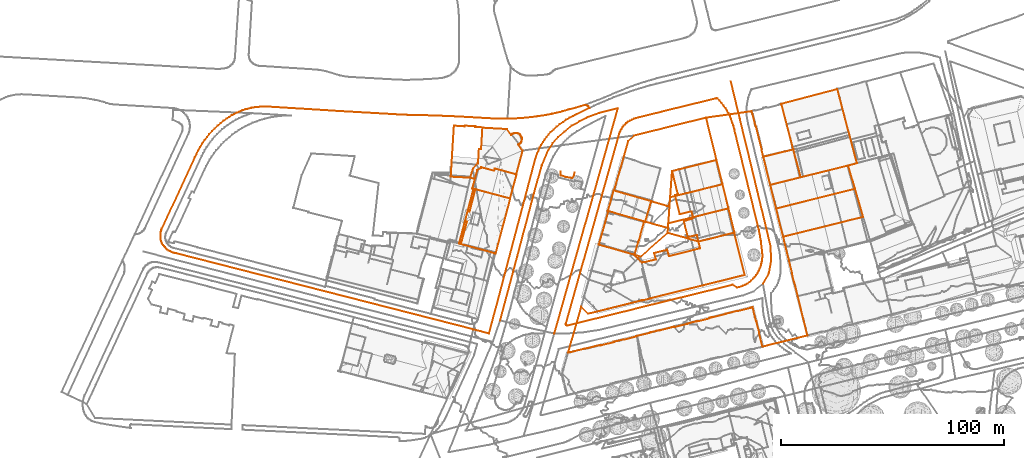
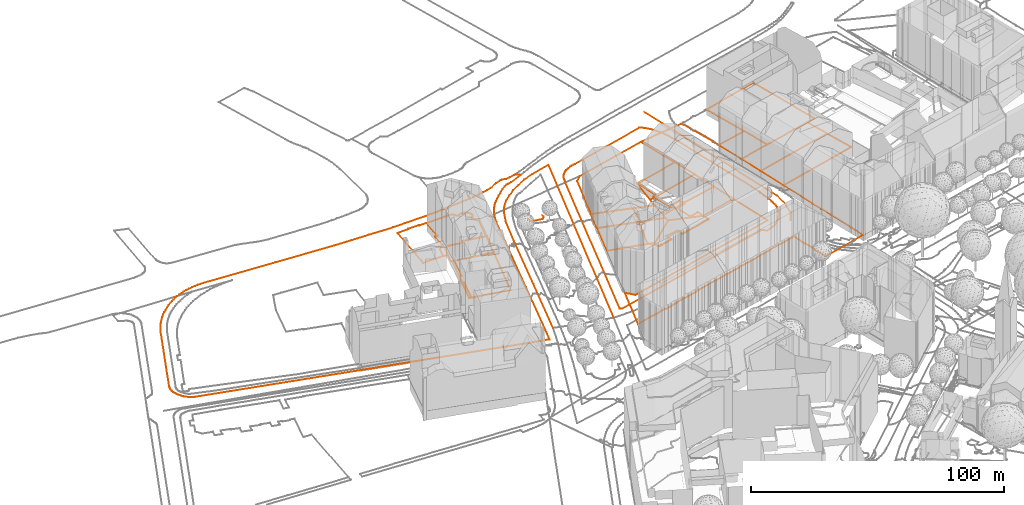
# Not in any storey, part 201 of 477: 16 geographic elements, 8 civil elements.
"""IFC4 model written with IfcOpenShell, lengths in metres."""

from ifc_helpers import new_model, entity, si_unit, frame, origin_with_axes, place, context, subcontext, project, spatial, element, save


model = new_model("IFC4")

# Units and contexts
model_context = context("Model", 3, precision=1e-05, world=origin_with_axes())
body_context = subcontext(model_context, "Body", "Model", "MODEL_VIEW")
ifc_project = project(units=[si_unit("AREAUNIT", "SQUARE_METRE"), si_unit("LENGTHUNIT", "METRE")], contexts=[model_context])

# Sites
site_1_placement = place(None, origin_with_axes())
site_1 = spatial("IfcSite", under=ifc_project, at=site_1_placement, Name="Topoexport Site")
site_2_placement = place(site_1_placement, origin_with_axes())
site_2 = spatial("IfcSite", under=site_1, at=site_2_placement, Name="TPX_ROADS")

# Civil elements
civil_element_1_placement = place(site_2_placement, frame((123.7827320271, 468.5747288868, 542.331), z_axis=(0.0, 0.0, 1.0), x_axis=(1.0, 0.0, 0.0)))
element("IfcCivilElement", 1, at=civil_element_1_placement, inside=site_2, Name="Road 30", ObjectType="ROAD", context=body_context, shape_type="GeometricCurveSet", body=[
    entity("IfcGeometricCurveSet", [entity("IfcIndexedPolyCurve", entity("IfcCartesianPointList3D", [[0.0, 0.0, 0.0], [4.1710000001, -17.2579994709, -0.28], [11.9360000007, -49.3279984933, -1.171], [17.9759999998, -74.4949977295, -1.783], [18.1209999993, -81.1099975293, -1.823], [17.1140000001, -86.7189973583, -1.959], [14.5249999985, -91.1779972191, -2.088]]))]),
])
civil_element_2_placement = place(site_2_placement, frame((44.610732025, 355.0317323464, 539.326), z_axis=(0.0, 0.0, 1.0), x_axis=(1.0, 0.0, 0.0)))
element("IfcCivilElement", 2, at=civil_element_2_placement, inside=site_2, Name="Road 47", ObjectType="ROAD", context=body_context, shape_type="GeometricCurveSet", body=[
    entity("IfcGeometricCurveSet", [entity("IfcIndexedPolyCurve", entity("IfcCartesianPointList3D", [[28.5510000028, 101.1739969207, 2.647], [0.0, 0.0, 0.0]]))]),
])
civil_element_3_placement = place(site_2_placement, frame((20.2697320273, 360.9057321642, 539.316), z_axis=(0.0, 0.0, 1.0), x_axis=(1.0, 0.0, 0.0)))
element("IfcCivilElement", 3, at=civil_element_3_placement, inside=site_2, Name="Road 89", ObjectType="ROAD", context=body_context, shape_type="GeometricCurveSet", body=[
    entity("IfcGeometricCurveSet", [entity("IfcIndexedPolyCurve", entity("IfcCartesianPointList3D", [[52.8920000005, 95.2999971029, 2.657], [44.4070000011, 93.1439971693, 2.479], [39.3729999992, 91.2739972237, 2.572], [35.7780000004, 89.4039972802, 2.417], [32.1829999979, 87.3909973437, 2.405], [28.8739999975, 84.8029974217, 2.396], [25.9979999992, 82.3579974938, 2.44], [23.6799999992, 79.6389975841, 2.438], [21.6959999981, 76.5969976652, 2.347], [18.7849999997, 69.8499978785, 2.122], [18.7010000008, 69.5489978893, 2.112], [15.2129999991, 57.1499982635, 1.72], [7.8049999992, 29.10399912, 0.847], [0.0, 0.0, 0.0]]))]),
])

# Site
site_3_placement = place(site_1_placement, origin_with_axes())
site_3 = spatial("IfcSite", under=site_1, at=site_3_placement, Name="TPX_ROADS_OUTLINES")

# Civil elements
civil_element_4_placement = place(site_3_placement, frame((49.7997320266, 359.2357160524, 539.4158096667), z_axis=(0.0, 0.0, 1.0), x_axis=(1.0, 0.0, 0.0)))
element("IfcCivilElement", 4, at=civil_element_4_placement, inside=site_3, Name="Roads Outline 14", ObjectType="ROAD", context=body_context, shape_type="GeometricCurveSet", body=[
    entity("IfcGeometricCurveSet", [entity("IfcIndexedPolyCurve", entity("IfcCartesianPointList3D", [[0.0109999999, 0.2150000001, 0.004528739], [23.6499999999, 84.422, 1.9273094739], [23.878, 85.2660000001, 1.9285201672], [24.173, 86.0900000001, 1.9300866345], [24.5330000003, 86.8870000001, 1.9319982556], [24.9550000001, 87.6540000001, 1.9342391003], [25.4360000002, 88.3840000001, 1.9367932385], [25.9590000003, 89.0550000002, 1.9395703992], [26.5320000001, 89.6830000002, 1.9425566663], [27.1520000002, 90.264, 1.9456218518], [27.5460000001, 90.591, 1.9438680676], [27.9550000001, 90.898, 1.9368783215], [28.801, 91.368, 1.9224203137], [29.6699999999, 91.7920000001, 1.9079256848], [30.5610000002, 92.1700000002, 1.8953276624], [31.4470000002, 92.493, 1.8887513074], [32.3480000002, 92.7690000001, 1.8823171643], [33.2630000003, 92.9990000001, 1.8776195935], [67.432, 101.3700000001, 2.2772009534], [67.648, 101.3970000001, 2.2799563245], [67.8620000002, 101.3570000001, 2.2826861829], [68.054, 101.2540000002, 2.2851354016], [69.0360000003, 100.2890000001, 2.2988268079], [69.96, 99.2680000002, 2.3016634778], [70.8229999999, 98.196, 2.2833202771], [71.6230000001, 97.0750000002, 2.2522134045], [72.3560000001, 95.9100000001, 2.2218805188], [73.0210000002, 94.7040000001, 2.2331755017], [73.6150000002, 93.4620000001, 2.2335005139], [74.1359999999, 92.1880000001, 2.2193180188], [74.7080000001, 90.591, 2.2019546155], [75.2170000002, 88.973, 2.1853338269], [75.662, 87.3350000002, 2.2046041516], [76.0410000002, 85.682, 2.2373363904], [86.1310000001, 44.568, 1.5845308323], [86.6690000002, 42.1330000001, 1.5286251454], [87.1400000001, 39.6840000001, 1.4609613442], [87.5430000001, 37.2240000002, 1.419308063], [87.8799999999, 34.753, 1.3903111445], [88.1490000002, 32.274, 1.3155356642], [88.219, 31.1940000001, 1.2984808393], [88.2110000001, 30.112, 1.2609984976], [88.125, 29.0330000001, 1.2420305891], [87.9610000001, 27.963, 1.20619397], [87.719, 26.9080000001, 1.1682767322], [87.4020000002, 25.8740000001, 1.1240185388], [87.0109999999, 24.865, 1.1066851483], [86.5470000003, 23.8870000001, 1.1014115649], [86.014, 22.9450000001, 1.0620086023], [85.4139999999, 22.044, 1.0363683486], [84.75, 21.189, 1.0199783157], [84.0260000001, 20.385, 0.9993887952], [83.2460000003, 19.635, 0.9708468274], [82.4130000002, 18.943, 0.9535556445], [81.5330000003, 18.314, 0.9499864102], [80.6090000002, 17.75, 0.9194578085], [79.6469999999, 17.2550000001, 0.9047099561], [76.889, 16.4500000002, 0.8792115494], [74.8110000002, 17.6710000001, 0.8711376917], [0.7749999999, -0.575, 0.0094330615], [0.5589999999, -0.5789999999, 0.0126848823], [0.3540000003, -0.513, 0.0146756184], [0.1809999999, -0.385, 0.0048476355], [0.0589999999, -0.2079999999, -0.0001135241], [0.0, 0.0, 0.0], [0.0109999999, 0.2150000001, 0.004528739]]))]),
])
civil_element_5_placement = place(site_3_placement, frame((80.6047320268, 390.3357160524, 541.0210265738), z_axis=(0.0, 0.0, 1.0), x_axis=(1.0, 0.0, 0.0)))
element("IfcCivilElement", 5, at=civil_element_5_placement, inside=site_3, Name="Roads Outline 19", ObjectType="ROAD", context=body_context, shape_type="GeometricCurveSet", body=[
    entity("IfcGeometricCurveSet", [entity("IfcIndexedPolyCurve", entity("IfcCartesianPointList3D", [[0.0, 0.0, 0.0], [0.0919999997, 0.3149999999, 0.0234294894], [1.7119999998, 5.8899999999, -0.0944509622], [1.7909999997, 5.8659999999, -0.0926934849], [2.7239999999, 9.1440000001, -0.0938976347], [2.6549999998, 9.1669999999, -0.0944665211], [4.2439999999, 14.669, -0.0691629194], [4.3149999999, 14.916, -0.0662429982], [4.7909999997, 14.781, -0.065429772], [4.8169999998, 14.8729999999, -0.0643417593], [4.8999999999, 15.159, -0.0609492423], [7.3759999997, 23.7490000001, 0.0405602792], [7.46, 24.047, 0.0440834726], [7.5729999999, 24.0160000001, 0.0442891], [14.6859999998, 21.9879999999, -0.0281207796], [15.5800000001, 21.72, -0.088212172], [15.727, 21.6710000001, -0.1000671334], [15.7399999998, 21.8659999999, -0.0962140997], [15.4169999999, 21.976, -0.0701911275], [15.8539999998, 23.548, -0.0906019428], [16.855, 37.5970000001, 0.4316783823], [16.9699999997, 37.6259999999, 0.4330751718], [19.483, 27.2050000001, 0.0943163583], [18.196, 26.888, 0.0672475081], [18.3059999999, 26.4480000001, 0.0524827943], [20.3489999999, 18.2679999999, -0.3280193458], [25.6179999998, 19.5389999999, -0.2677685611], [26.2029999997, 17.1599999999, 0.4872272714], [26.2650000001, 16.898, 0.4766446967], [26.0239999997, 16.831, 0.4786106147], [26.102, 16.5249999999, 0.4659528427], [26.1689999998, 16.26, 0.4539679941], [22.1839999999, 15.2120000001, 0.148201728], [23.9649999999, 7.9820000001, -0.0536375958], [28.0, 8.9639999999, 0.0344842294], [28.6659999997, 6.3119999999, -0.1179561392], [28.7480000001, 5.986, -0.1367166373], [28.8569999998, 5.548, -0.1619057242], [29.2650000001, 3.9129999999, -0.2398368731], [29.4720000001, 3.068, -0.2652740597], [29.264, 3.017, -0.2686244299], [29.2889999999, 2.9169999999, -0.2713098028], [26.6439999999, 2.25, -0.1751718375], [15.4709999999, -0.568, -0.2582261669], [15.2310000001, 0.422, -0.2084124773], [14.7509999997, 2.3030000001, -0.1195572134], [8.8959999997, 0.868, 0.1263028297], [9.5929999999, -2.0120000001, 0.0154550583], [4.3259999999, -3.3189999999, -0.040262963], [4.2799999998, -3.189, -0.0343633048], [3.7909999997, -3.308, -0.0541889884], [3.3089999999, -3.4169999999, -0.0705554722], [2.8539999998, -2.939, -0.051961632], [1.8819999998, -1.9210000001, -0.0234626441], [1.7969999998, -1.8319999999, -0.0215386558], [1.6779999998, -1.7069999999, -0.0188938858], [1.602, -1.6300000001, -0.0177046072], [1.466, -1.4909999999, -0.0164409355], [1.375, -1.398, -0.0157759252], [0.548, -0.558, -0.0126835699], [0.0, 0.0, 0.0]]))]),
])
civil_element_6_placement = place(site_3_placement, frame((-132.1772679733, 399.1867160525, 539.2847263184), z_axis=(0.0, 0.0, 1.0), x_axis=(1.0, 0.0, 0.0)))
element("IfcCivilElement", 6, at=civil_element_6_placement, inside=site_3, Name="Roads Outline 24", ObjectType="ROAD", context=body_context, shape_type="GeometricCurveSet", body=[
    entity("IfcGeometricCurveSet", [entity("IfcIndexedPolyCurve", entity("IfcCartesianPointList3D", [[0.0, 0.0, 0.0], [0.0580000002, 0.7479999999, -0.000829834], [0.1830000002, 1.4879999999, 0.0100100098], [0.3730000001, 2.213, 0.020630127], [0.628, 2.919, 0.0309453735], [15.3999999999, 34.7830000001, 0.1709621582], [16.1329999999, 36.416, 0.1709621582], [16.9380000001, 38.0149999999, 0.1709621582], [17.8130000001, 39.577, 0.1709621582], [18.7560000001, 41.098, 0.1709621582], [19.7659999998, 42.5759999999, 0.1709621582], [20.841, 44.0079999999, 0.1709621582], [21.9530000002, 45.362, 0.1709621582], [23.1230000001, 46.6669999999, 0.1709621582], [24.3480000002, 47.9199999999, 0.1709621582], [25.6260000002, 49.1189999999, 0.1709621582], [26.9550000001, 50.2609999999, 0.1709621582], [28.3330000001, 51.344, 0.1709621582], [29.7560000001, 52.3669999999, 0.1709621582], [30.8620000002, 53.1070000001, 0.1709621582], [32.0010000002, 53.7959999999, 0.1709621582], [33.1699999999, 54.433, 0.1709621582], [34.3659999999, 55.017, 0.1709621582], [35.6510000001, 55.5719999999, 0.1709621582], [36.9610000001, 56.064, 0.1709621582], [38.2930000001, 56.4939999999, 0.1709621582], [39.6430000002, 56.8599999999, 0.1709621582], [41.0100000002, 57.1609999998, 0.1709621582], [42.5060000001, 57.4180000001, 0.1709621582], [44.014, 57.598, 0.1709621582], [45.5290000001, 57.702, 0.1709621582], [47.0470000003, 57.7290000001, 0.1709621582], [48.5640000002, 57.679, 0.1709621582], [79.8539999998, 55.7390000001, 0.1709621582], [106.3429999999, 54.206, 0.1709621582], [108.6409999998, 54.0970000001, 0.1709621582], [110.9399999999, 54.0090000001, 0.1709621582], [113.483, 53.939, 0.1709621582], [116.0260000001, 53.8969999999, 0.1709621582], [121.4989999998, 53.7490000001, 0.1709621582], [126.9709999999, 53.5530000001, 0.1709621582], [132.25, 53.3219999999, 0.2263533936], [137.5260000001, 53.0459999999, 0.5566784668], [146.4780000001, 52.5379999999, 1.1759785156], [148.8149999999, 52.4010000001, 1.3408413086], [151.1540000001, 52.3149999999, 1.505840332], [153.4950000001, 52.28, 1.6707314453], [155.8360000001, 52.2959999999, 1.8248441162], [156.5260000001, 52.308, 1.8687376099], [157.2149999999, 52.325, 1.9125991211], [159.7570000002, 52.429, 2.074397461], [162.2960000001, 52.594, 2.0724216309], [164.8310000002, 52.8189999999, 2.1272253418], [167.0699999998, 53.067, 2.0545699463], [169.3029999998, 53.3629999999, 2.0138759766], [171.5300000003, 53.7050000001, 2.0725414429], [173.7280000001, 54.0759999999, 2.2215261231], [175.9160000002, 54.504, 2.2819563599], [178.0920000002, 54.99, 2.4810037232], [180.5720000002, 55.6199999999, 3.3482492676], [183.0329999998, 56.3229999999, 3.3436479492], [183.7579999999, 56.5449999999, 3.2761661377], [186.0090000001, 57.1229999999, 2.5087397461], [188.2430000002, 57.763, 2.1510275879], [190.4580000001, 58.466, 2.0687412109], [190.946, 58.382, 2.0569462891], [191.4199999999, 58.237, 2.0489174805], [191.8629999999, 58.0389999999, 2.0615715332], [192.2779999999, 57.7879999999, 2.0734257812], [192.6239999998, 57.1459999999, 2.0698787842], [186.7609999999, 54.29, 2.3174960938], [185.1860000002, 53.517, 2.8058417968], [183.645, 52.679, 3.2944155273], [182.1409999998, 51.7779999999, 3.3651279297], [180.6749999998, 50.814, 3.3584084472], [179.2039999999, 49.753, 2.7325586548], [177.781, 48.629, 2.4196351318], [176.4070000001, 47.4450000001, 2.2768447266], [175.0860000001, 46.202, 2.2866617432], [174.1540000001, 45.1459999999, 2.2548073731], [173.273, 44.0489999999, 2.1833717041], [172.4419999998, 42.9109999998, 2.0920245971], [171.6660000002, 41.737, 2.0741766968], [170.9440000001, 40.5279999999, 2.0594749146], [170.2630000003, 39.2549999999, 2.0408618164], [169.6430000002, 37.9509999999, 2.0212976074], [169.085, 36.6199999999, 2.0208614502], [168.5899999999, 35.263, 2.0367229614], [168.1600000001, 33.885, 2.0436937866], [156.6880000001, -9.3800000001, 0.8902549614], [148.6529999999, -39.767, -0.0517641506], [147.4550000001, -44.1200000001, -0.1773587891], [143.6299999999, -43.112, -0.215316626], [140.4580000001, -42.2879999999, -0.3057739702], [7.1310000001, -8.128, -0.5047250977], [6.395, -7.996, -0.4869602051], [5.673, -7.7990000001, -0.4604474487], [4.9709999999, -7.54, -0.4255905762], [4.2949999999, -7.2210000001, -0.3763928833], [3.6499999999, -6.8430000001, -0.3174918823], [3.04, -6.409, -0.2540444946], [2.4709999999, -5.9240000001, -0.1974157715], [2.0040000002, -5.4540000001, -0.1425460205], [1.5759999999, -4.95, -0.083760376], [1.1869999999, -4.4129999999, -0.0252434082], [0.8420000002, -3.848, 0.0180695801], [0.5419999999, -3.2580000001, 0.0536933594], [0.3300000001, -2.628, 0.0785334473], [0.1690000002, -1.983, 0.0667161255], [0.0600000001, -1.327, 0.0435181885], [0.0040000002, -0.665, 0.0120828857], [0.0, 0.0, 0.0]]))]),
])
civil_element_7_placement = place(site_3_placement, frame((1.9097320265, 395.6687160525, 539.3216141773), z_axis=(0.0, 0.0, 1.0), x_axis=(1.0, 0.0, 0.0)))
element("IfcCivilElement", 7, at=civil_element_7_placement, inside=site_3, Name="Roads Outline 25", ObjectType="ROAD", context=body_context, shape_type="GeometricCurveSet", body=[
    entity("IfcGeometricCurveSet", [entity("IfcIndexedPolyCurve", entity("IfcCartesianPointList3D", [[0.0, 0.0, 0.0], [2.6120000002, 9.872, 0.2168953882], [3.4810000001, 9.6369999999, 0.2680851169], [0.8690000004, -0.2350000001, 0.0328121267], [0.0, 0.0, 0.0]]))]),
])
civil_element_8_placement = place(site_3_placement, frame((5.6737320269, 409.8967160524, 539.6586860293), z_axis=(0.0, 0.0, 1.0), x_axis=(1.0, 0.0, 0.0)))
element("IfcCivilElement", 8, at=civil_element_8_placement, inside=site_3, Name="Roads Outline 26", ObjectType="ROAD", context=body_context, shape_type="GeometricCurveSet", body=[
    entity("IfcGeometricCurveSet", [entity("IfcIndexedPolyCurve", entity("IfcCartesianPointList3D", [[0.0, 0.0, 0.0], [2.5729999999, 9.727, 0.2684005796], [2.673, 10.0970000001, 0.2787475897], [3.5329999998, 9.868, 0.329449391], [0.8699999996, -0.23, 0.0512986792], [0.0969999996, -0.0260000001, 0.0057168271], [0.0, 0.0, 0.0]]))]),
])

# Site
site_4_placement = place(site_1_placement, origin_with_axes())
site_4 = spatial("IfcSite", under=site_1, at=site_4_placement, Name="TPX_CADASTRES")

# Geographic elements
geographic_element_1_placement = place(site_4_placement, frame((146.5207320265, 458.1257160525, 541.7712042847), z_axis=(0.0, 0.0, 1.0), x_axis=(1.0, 0.0, 0.0)))
element("IfcGeographicElement", 9, at=geographic_element_1_placement, inside=site_4, Name="Cadastre 0", PredefinedType="NOTDEFINED", context=body_context, shape_type="GeometricCurveSet", body=[
    entity("IfcGeometricCurveSet", [entity("IfcIndexedPolyCurve", entity("IfcCartesianPointList3D", [[0.0, 0.0, 0.0], [25.1370000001, 6.6609999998, 0.1181365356], [33.923, -26.6310000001, 0.040062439], [30.0240000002, -27.675, 0.0537672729], [8.702, -32.952, -0.0061048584], [5.3960000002, -20.4340000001, 0.0253596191], [0.0, 0.0, 0.0]]))]),
])
geographic_element_2_placement = place(site_4_placement, frame((1.8197320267, 395.3787160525, 539.2882389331), z_axis=(0.0, 0.0, 1.0), x_axis=(1.0, 0.0, 0.0)))
element("IfcGeographicElement", 10, at=geographic_element_2_placement, inside=site_4, Name="Cadastre 21", PredefinedType="NOTDEFINED", context=body_context, shape_type="GeometricCurveSet", body=[
    entity("IfcGeometricCurveSet", [entity("IfcIndexedPolyCurve", entity("IfcCartesianPointList3D", [[0.0, 0.0, 0.0], [0.0899999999, 0.29, 0.0333752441], [6.4270000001, 24.2449999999, 0.6388476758], [6.5270000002, 24.615, 0.6491946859], [7.4840000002, 24.3599999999, 0.7056097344], [22.9180000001, 20.2559999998, 1.6154132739], [23.0019999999, 20.2339999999, 1.6203764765], [16.4410000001, -4.429, 0.8928520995], [16.3310000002, -4.399, 0.8909503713], [0.0, 0.0, 0.0]]))]),
])
geographic_element_3_placement = place(site_4_placement, frame((7.7867320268, 420.1437160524, 539.9044291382), z_axis=(0.0, 0.0, 1.0), x_axis=(1.0, 0.0, 0.0)))
element("IfcGeographicElement", 11, at=geographic_element_3_placement, inside=site_4, Name="Cadastre 22", PredefinedType="NOTDEFINED", context=body_context, shape_type="GeometricCurveSet", body=[
    entity("IfcGeometricCurveSet", [entity("IfcIndexedPolyCurve", entity("IfcCartesianPointList3D", [[0.0, 0.0, 0.0], [1.1599999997, 4.2409999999, 0.119373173], [2.2889999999, 8.2920000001, 0.2581801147], [4.0290000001, 9.223, 0.3809424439], [3.8689999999, 9.5430000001, 0.3696533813], [9.7689999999, 7.943, 0.7858765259], [10.0490000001, 8.943, 0.8056323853], [19.7199999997, 6.3230000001, 1.4440600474], [19.8700000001, 6.2830000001, 1.4509943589], [16.9509999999, -4.5090000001, 0.9992230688], [1.517, -0.405, 0.0894195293], [0.5600000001, -0.1499999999, 0.0330044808], [0.0, 0.0, 0.0]]))]),
])
geographic_element_4_placement = place(site_4_placement, frame((6.906732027, 424.9447160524, 539.9037567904), z_axis=(0.0, 0.0, 1.0), x_axis=(1.0, 0.0, 0.0)))
element("IfcGeographicElement", 12, at=geographic_element_4_placement, inside=site_4, Name="Cadastre 23", PredefinedType="NOTDEFINED", context=body_context, shape_type="GeometricCurveSet", body=[
    entity("IfcGeometricCurveSet", [entity("IfcIndexedPolyCurve", entity("IfcCartesianPointList3D", [[0.0, 0.0, 0.0], [1.1989999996, 4.2310000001, 0.1199941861], [3.2589999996, 6.682, 0.265197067], [3.4789999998, 6.382, 0.2807187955], [3.8679999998, 12.8730000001, 0.3081653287], [4.8679999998, 12.8130000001, 0.3787219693], [5.4469999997, 22.4650000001, 0.4195742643], [16.4669999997, 21.8360000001, 1.1876880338], [18.3779999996, 19.206, 1.309292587], [18.7049999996, 19.5080000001, 1.3301092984], [19.0769999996, 19.754, 1.3537906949], [19.4829999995, 19.9370000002, 1.3796365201], [19.9129999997, 20.0530000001, 1.4070101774], [20.3559999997, 20.098, 1.4352062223], [20.801, 20.0720000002, 1.4635076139], [21.2359999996, 19.9750000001, 1.4911730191], [21.6489999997, 19.8090000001, 1.4906073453], [22.031, 19.5790000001, 1.4877861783], [22.3709999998, 19.291, 1.4825469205], [22.6599999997, 18.952, 1.4725278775], [22.8909999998, 18.571, 1.4645195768], [23.0579999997, 18.1580000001, 1.458730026], [23.1569999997, 17.723, 1.4552978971], [23.1849999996, 17.2779999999, 1.454327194], [23.1409999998, 16.835, 1.4558525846], [23.0259999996, 16.4040000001, 1.459839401], [22.8439999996, 15.997, 1.4661489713], [22.5989999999, 15.625, 1.4746426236], [22.298, 15.297, 1.4850776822], [21.9479999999, 15.0209999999, 1.4883991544], [21.5579999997, 14.8049999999, 1.4912794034], [23.4589999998, 12.1850000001, 1.4590337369], [20.5999999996, 1.5220000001, 1.4447323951], [10.929, 4.142, 0.806304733], [10.6489999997, 3.142, 0.7865488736], [4.7489999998, 4.7420000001, 0.3703257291], [4.909, 4.422, 0.3816147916], [3.1689999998, 3.4910000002, 0.2588524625], [2.0399999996, -0.5600000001, 0.1200455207], [0.0, 0.0, 0.0]]))]),
])
geographic_element_5_placement = place(site_4_placement, frame((144.1887320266, 411.1157160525, 541.3797005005), z_axis=(0.0, 0.0, 1.0), x_axis=(1.0, 0.0, 0.0)))
element("IfcGeographicElement", 13, at=geographic_element_5_placement, inside=site_4, Name="Cadastre 62", PredefinedType="NOTDEFINED", context=body_context, shape_type="GeometricCurveSet", body=[
    entity("IfcGeometricCurveSet", [entity("IfcIndexedPolyCurve", entity("IfcCartesianPointList3D", [[0.0, 0.0, 0.0], [35.4080000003, 8.923, 0.323996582], [39.1140000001, -3.7150000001, 0.1322791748], [3.1320000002, -12.628, -0.3554486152], [0.0, 0.0, 0.0]]))]),
])
geographic_element_6_placement = place(site_4_placement, frame((95.4957320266, 400.2027160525, 541.1708767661), z_axis=(0.0, 0.0, 1.0), x_axis=(1.0, 0.0, 0.0)))
element("IfcGeographicElement", 14, at=geographic_element_6_placement, inside=site_4, Name="Cadastre 64", PredefinedType="NOTDEFINED", context=body_context, shape_type="GeometricCurveSet", body=[
    entity("IfcGeometricCurveSet", [entity("IfcIndexedPolyCurve", entity("IfcCartesianPointList3D", [[0.0, 0.0, 0.0], [0.1529999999, 2.1569999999, -0.1392974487], [0.3020000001, 4.2689999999, -0.2378315], [11.3740000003, 7.031, 0.3267945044], [27.321, 11.0089999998, 0.096302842], [30.0019999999, 0.142, -0.1489787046], [29.8790000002, 0.1109999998, -0.1501682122], [13.8570000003, -3.8810000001, -0.2865668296], [10.6040000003, -2.969, -0.2628146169], [0.0, 0.0, 0.0]]))]),
])
geographic_element_7_placement = place(site_4_placement, frame((95.7977320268, 404.4717160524, 540.9330452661), z_axis=(0.0, 0.0, 1.0), x_axis=(1.0, 0.0, 0.0)))
element("IfcGeographicElement", 15, at=geographic_element_7_placement, inside=site_4, Name="Cadastre 65", PredefinedType="NOTDEFINED", context=body_context, shape_type="GeometricCurveSet", body=[
    entity("IfcGeometricCurveSet", [entity("IfcIndexedPolyCurve", entity("IfcCartesianPointList3D", [[0.0, 0.0, 0.0], [0.534, 7.5350000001, -0.0120858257], [0.8309999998, 11.7250000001, 0.1215349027], [8.199, 13.5520000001, 0.2553800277], [24.3489999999, 17.557, 0.6488172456], [27.0189999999, 6.74, 0.334134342], [11.0720000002, 2.7620000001, 0.5646260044], [0.0, 0.0, 0.0]]))]),
])
geographic_element_8_placement = place(site_4_placement, frame((68.6347320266, 410.0317160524, 540.8389018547), z_axis=(0.0, 0.0, 1.0), x_axis=(1.0, 0.0, 0.0)))
element("IfcGeographicElement", 16, at=geographic_element_8_placement, inside=site_4, Name="Cadastre 66", PredefinedType="NOTDEFINED", context=body_context, shape_type="GeometricCurveSet", body=[
    entity("IfcGeometricCurveSet", [entity("IfcIndexedPolyCurve", entity("IfcCartesianPointList3D", [[0.0, 0.0, 0.0], [2.602, 9.1909999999, 0.343342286], [2.801, 9.1340000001, 0.3439122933], [19.5430000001, 4.3200000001, 0.2264138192], [27.6970000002, 1.9750000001, 0.0820575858], [27.1630000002, -5.5600000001, 0.0941434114], [27.014, -7.672, 0.1926774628], [16.9240000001, -4.861, 0.1180278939], [16.3089999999, -4.689, 0.1169479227], [0.2590000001, -0.074, 0.0023835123], [0.0, 0.0, 0.0]]))]),
])
geographic_element_9_placement = place(site_4_placement, frame((64.5867320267, 394.9017160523, 540.4985098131), z_axis=(0.0, 0.0, 1.0), x_axis=(1.0, 0.0, 0.0)))
element("IfcGeographicElement", 17, at=geographic_element_9_placement, inside=site_4, Name="Cadastre 68", PredefinedType="NOTDEFINED", context=body_context, shape_type="GeometricCurveSet", body=[
    entity("IfcGeometricCurveSet", [entity("IfcIndexedPolyCurve", entity("IfcCartesianPointList3D", [[0.0, 0.0, 0.0], [4.307, 15.0560000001, 0.3427755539], [20.3569999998, 10.4410000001, 0.4573399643], [20.9720000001, 10.2690000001, 0.4584199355], [31.0619999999, 7.4580000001, 0.5330695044], [30.909, 5.3010000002, 0.6723669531], [18.6890000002, -5.402, 0.5746970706], [16.0180000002, -4.5659999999, 0.5225167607], [0.0, 0.0, 0.0]]))]),
])
geographic_element_10_placement = place(site_4_placement, frame((141.5417320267, 421.7857160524, 541.6574147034), z_axis=(0.0, 0.0, 1.0), x_axis=(1.0, 0.0, 0.0)))
element("IfcGeographicElement", 18, at=geographic_element_10_placement, inside=site_4, Name="Cadastre 72", PredefinedType="NOTDEFINED", context=body_context, shape_type="GeometricCurveSet", body=[
    entity("IfcGeometricCurveSet", [entity("IfcIndexedPolyCurve", entity("IfcCartesianPointList3D", [[0.0, 0.0, 0.0], [13.6809999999, 3.388, 0.1076847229], [35.003, 8.665, 0.1675568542], [38.0550000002, -1.747, 0.0462823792], [2.6469999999, -10.6699999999, -0.2777142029], [0.0, 0.0, 0.0]]))]),
])
geographic_element_11_placement = place(site_4_placement, frame((138.4237320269, 434.3577160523, 541.8464157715), z_axis=(0.0, 0.0, 1.0), x_axis=(1.0, 0.0, 0.0)))
element("IfcGeographicElement", 19, at=geographic_element_11_placement, inside=site_4, Name="Cadastre 73", PredefinedType="NOTDEFINED", context=body_context, shape_type="GeometricCurveSet", body=[
    entity("IfcGeometricCurveSet", [entity("IfcIndexedPolyCurve", entity("IfcCartesianPointList3D", [[0.0, 0.0, 0.0], [13.4929999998, 3.334, -0.0498518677], [16.7989999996, -9.1839999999, -0.0813163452], [3.1179999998, -12.5719999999, -0.1890010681], [0.0, 0.0, 0.0]]))]),
])
geographic_element_12_placement = place(site_4_placement, frame((96.6287320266, 416.1967160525, 541.0545801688), z_axis=(0.0, 0.0, 1.0), x_axis=(1.0, 0.0, 0.0)))
element("IfcGeographicElement", 20, at=geographic_element_12_placement, inside=site_4, Name="Cadastre 74", PredefinedType="NOTDEFINED", context=body_context, shape_type="GeometricCurveSet", body=[
    entity("IfcGeometricCurveSet", [entity("IfcIndexedPolyCurve", entity("IfcCartesianPointList3D", [[0.0, 0.0, 0.0], [0.8310000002, 11.736, 0.3981247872], [4.6970000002, 12.702, 0.4450812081], [20.8290000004, 16.7309999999, 0.6413133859], [23.5180000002, 5.8319999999, 0.5272823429], [7.3680000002, 1.827, 0.1338451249], [0.0, 0.0, 0.0]]))]),
])
geographic_element_13_placement = place(site_4_placement, frame((50.7997320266, 346.4397160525, 539.2906210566), z_axis=(0.0, 0.0, 1.0), x_axis=(1.0, 0.0, 0.0)))
element("IfcGeographicElement", 21, at=geographic_element_13_placement, inside=site_4, Name="Cadastre 77", PredefinedType="NOTDEFINED", context=body_context, shape_type="GeometricCurveSet", body=[
    entity("IfcGeometricCurveSet", [entity("IfcIndexedPolyCurve", entity("IfcCartesianPointList3D", [[0.0, 0.0, 0.0], [5.923, 20.6359999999, 0.3986439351], [8.946, 17.4989999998, 0.3742888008], [33.2910000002, 23.5149999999, 0.7271280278], [33.3130000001, 23.4239999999, 0.7228599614], [37.0980000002, 24.3589999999, 0.7490305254], [37.0750000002, 24.45, 0.7556318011], [60.3850000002, 30.2109999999, 0.9865524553], [79.2910000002, 34.8829999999, 1.2224057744], [74.5750000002, 53.8739999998, 1.7300874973], [74.6979999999, 53.905, 1.7312770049], [72.017, 64.7719999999, 1.9765585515], [69.3470000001, 75.5889999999, 2.2912414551], [66.6580000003, 86.4879999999, 2.4052724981], [61.9649999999, 105.5009999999, 2.3480394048], [82.4250000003, 108.3639999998, 2.3395095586], [84.1710000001, 101.8199999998, 2.3528180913], [84.2630000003, 101.8329999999, 2.3544970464], [86.9760000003, 90.9099999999, 2.5294667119], [86.8880000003, 90.888, 2.5260238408], [87.6240000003, 87.9179999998, 2.5557947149], [90.7420000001, 75.3459999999, 2.3667936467], [93.389, 64.676, 2.0890794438], [96.5210000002, 52.048, 1.7336308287], [99.1750000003, 41.344, 1.531150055], [100.571, 35.7239999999, 1.3486134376], [100.4649999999, 35.6979999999, 1.3462667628], [101.628, 30.9549999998, 1.2950264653], [101.7349999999, 30.9809999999, 1.2977951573], [103.1200000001, 25.3369999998, 1.1972931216], [107.4309999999, 7.764, 0.780871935], [87.2250000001, 2.6949999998, 0.5953655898], [85.679, 8.9299999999, 0.6887766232], [85.8149999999, 8.9639999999, 0.6866554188], [84.5130000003, 14.2179999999, 0.8061608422], [84.3769999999, 14.1849999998, 0.8051193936], [82.8319999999, 20.425, 0.9673656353], [81.8760000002, 20.193, 0.9714887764], [81.8969999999, 20.105, 0.97062123], [75.6850000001, 18.5619999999, 0.8892017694], [75.6490000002, 18.7079999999, 0.8961965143], [70.7280000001, 17.49, 0.8665392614], [70.764, 17.344, 0.8629895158], [64.5330000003, 15.8089999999, 0.7692548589], [64.5120000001, 15.8959999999, 0.7705539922], [63.5530000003, 15.662, 0.7748808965], [63.6099999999, 15.429, 0.771399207], [57.7409999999, 13.9679999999, 0.7424991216], [57.7050000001, 14.1139999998, 0.744254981], [53.5759999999, 13.0929999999, 0.6908069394], [53.6120000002, 12.9469999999, 0.6878311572], [47.7370000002, 11.49, 0.7083365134], [47.6809999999, 11.723, 0.7146233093], [46.719, 11.4909999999, 0.6730186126], [46.7379999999, 11.4129999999, 0.6711991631], [41.1850000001, 10.0179999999, 0.5430471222], [41.1490000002, 10.1639999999, 0.5452203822], [37.0100000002, 9.1469999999, 0.5085427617], [37.0460000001, 9.0009999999, 0.5061368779], [31.4820000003, 7.6429999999, 0.4207475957], [31.463, 7.7219999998, 0.4220663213], [30.8149999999, 7.5599999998, 0.4304313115], [30.5040000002, 7.4839999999, 0.4344684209], [30.5649999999, 7.2409999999, 0.4303708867], [24.6920000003, 5.774, 0.3840094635], [24.6550000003, 5.919, 0.3863811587], [20.5180000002, 4.8799999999, 0.3148573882], [20.5550000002, 4.7349999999, 0.3114067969], [14.6809999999, 3.2679999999, 0.2008129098], [14.6240000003, 3.5009999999, 0.2053948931], [7.4399999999, 1.7479999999, 0.2296206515], [7.426, 1.8059999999, 0.2308575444], [0.0, 0.0, 0.0]]))]),
])
geographic_element_14_placement = place(site_4_placement, frame((71.4357320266, 419.1657160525, 541.1828141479), z_axis=(0.0, 0.0, 1.0), x_axis=(1.0, 0.0, 0.0)))
element("IfcGeographicElement", 22, at=geographic_element_14_placement, inside=site_4, Name="Cadastre 78", PredefinedType="NOTDEFINED", context=body_context, shape_type="GeometricCurveSet", body=[
    entity("IfcGeometricCurveSet", [entity("IfcIndexedPolyCurve", entity("IfcCartesianPointList3D", [[0.0, 0.0, 0.0], [6.355, 22.2069999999, 0.169258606], [8.9500000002, 24.7559999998, 0.1281370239], [41.3289999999, 32.7749999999, 0.4558463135], [46.0220000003, 13.7619999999, 0.5130794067], [29.8900000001, 9.733, 0.316847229], [26.0240000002, 8.767, 0.2698908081], [25.193, -2.969, -0.1282339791], [24.8960000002, -7.159, -0.2618547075], [16.7420000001, -4.814, -0.1174984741], [0.0, 0.0, 0.0]]))]),
])
geographic_element_15_placement = place(site_4_placement, frame((-1.8742679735, 425.4247160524, 539.4304648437), z_axis=(0.0, 0.0, 1.0), x_axis=(1.0, 0.0, 0.0)))
element("IfcGeographicElement", 23, at=geographic_element_15_placement, inside=site_4, Name="Cadastre 114", PredefinedType="NOTDEFINED", context=body_context, shape_type="GeometricCurveSet", body=[
    entity("IfcGeometricCurveSet", [entity("IfcIndexedPolyCurve", entity("IfcCartesianPointList3D", [[0.0, 0.0, 0.0], [0.1300000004, 1.9400000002, 0.0217871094], [0.4470000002, 6.9710000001, 0.0252236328], [1.3880000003, 21.9240000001, 0.0460185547], [1.4380000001, 22.9040000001, 0.0491130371], [6.338, 22.6040000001, 0.3538553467], [6.358, 22.9040000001, 0.3551456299], [11.0580000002, 22.625, 0.6692623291], [11.0380000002, 22.325, 0.6678515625], [14.2380000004, 22.135, 0.8935717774], [14.2280000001, 21.9850000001, 0.8928662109], [13.6490000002, 12.3330000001, 0.852013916], [12.6490000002, 12.3930000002, 0.7814572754], [12.2600000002, 5.902, 0.7540107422], [12.04, 6.202, 0.7384890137], [9.98, 3.7510000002, 0.5932861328], [8.7810000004, -0.48, 0.4732919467], [0.0, 0.0, 0.0]]))]),
])

# Site
site_5_placement = place(site_1_placement, origin_with_axes())
site_5 = spatial("IfcSite", under=site_1, at=site_5_placement, Name="TPX_CONTOUR_LINES")

# Geographic element
geographic_element_16_placement = place(site_5_placement, frame((47.4532316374, 427.6707160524, 542.0), z_axis=(0.0, 0.0, 1.0), x_axis=(1.0, 0.0, 0.0)))
element("IfcGeographicElement", 24, at=geographic_element_16_placement, inside=site_5, Name="Contour Line 542.0 m", PredefinedType="NOTDEFINED", context=body_context, shape_type="GeometricCurveSet", body=[
    entity("IfcGeometricCurveSet", [entity("IfcIndexedPolyCurve", entity("IfcCartesianPointList3D", [[6.2674761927, 0.0, 0.0], [6.0807139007, -1.5, 0.0], [5.2245003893, -2.8086319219, 0.0], [2.2245003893, -2.3788685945, 0.0], [0.2245003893, -1.6282358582, 0.0], [0.0200678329, -1.5, 0.0], [0.0, 0.0, 0.0]]))]),
])

save(model, "model.ifc")
